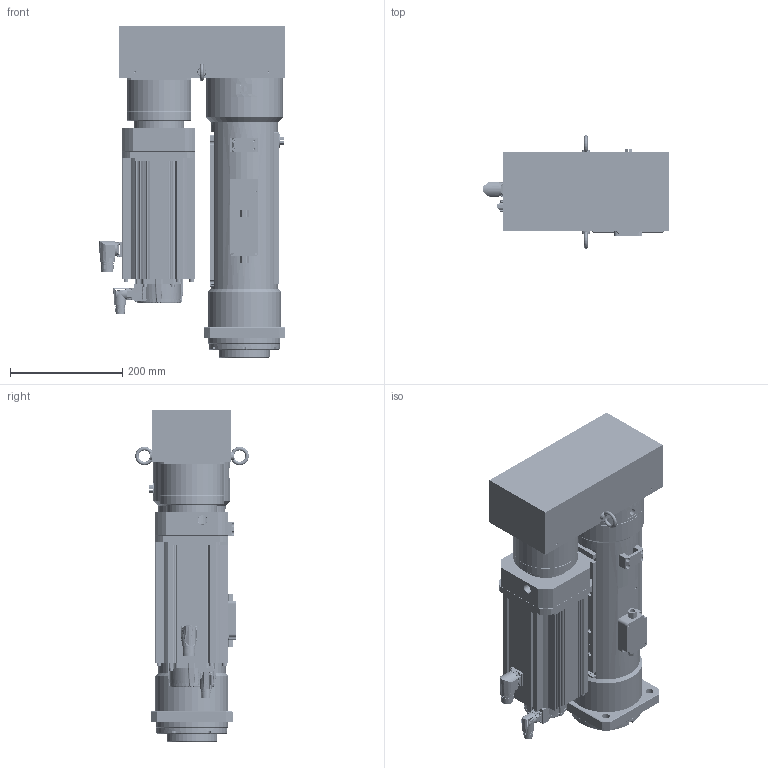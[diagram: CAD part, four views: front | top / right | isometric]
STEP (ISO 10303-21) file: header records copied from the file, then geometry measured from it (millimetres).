
FILE_DESCRIPTION( ('This file contains a STEP AP42 implementation' ,'as created by ZW3D STEP Interface translator.') ,'2;1' );
FILE_NAME( 'OACIS-DC-P050-200-195-A6V400_V20.51.stp' ,'26 424.133921', (''), ('ZWCAD Software Co.'), 'Version 1.0', 'ZW3D to STEP translator', '' );
FILE_SCHEMA(('AUTOMOTIVE_DESIGN { 1 0 10303 214 1 1 1 1 }'));
Length unit declared in the file: millimetre
Products named in the file (1): 0
Bounding box: 331 x 202.25 x 591 mm (x, y, z)
Volume: 11929692.8 mm3; surface area: 1903499.7 mm2
Topology: 55 solids, 58 shells, 3828 faces, 9824 edges, 6292 vertices
Faces by surface type: cylinder 1827, plane 1463, cone 370, torus 108, bspline 48, sphere 12
Full cylindrical faces by diameter (mm): 1.25 x12, 1.567 x4, 2 x1, 2.232 x6, 2.459 x1, 2.8 x1, 3.242 x3, 3.3 x66, 4.2 x4, 4.3 x19, 4.5 x14, 4.917 x20, 5 x1, 5.3 x4, 5.5 x5, 6 x12, 6.647 x6, 6.8 x41, 7 x4, 8 x25, 8.4 x8, 8.5 x4, 9 x26, 9.5 x4, 9.78 x8, 10 x7, 10.104 x4, 10.106 x1, 10.2 x16, 10.5 x4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
Entity records: 133857 total; most frequent: CARTESIAN_POINT 30998, DIRECTION 21463, ORIENTED_EDGE 19392, EDGE_CURVE 9738, AXIS2_PLACEMENT_3D 8467, VERTEX_POINT 6301, CIRCLE 4673, VECTOR 4529
